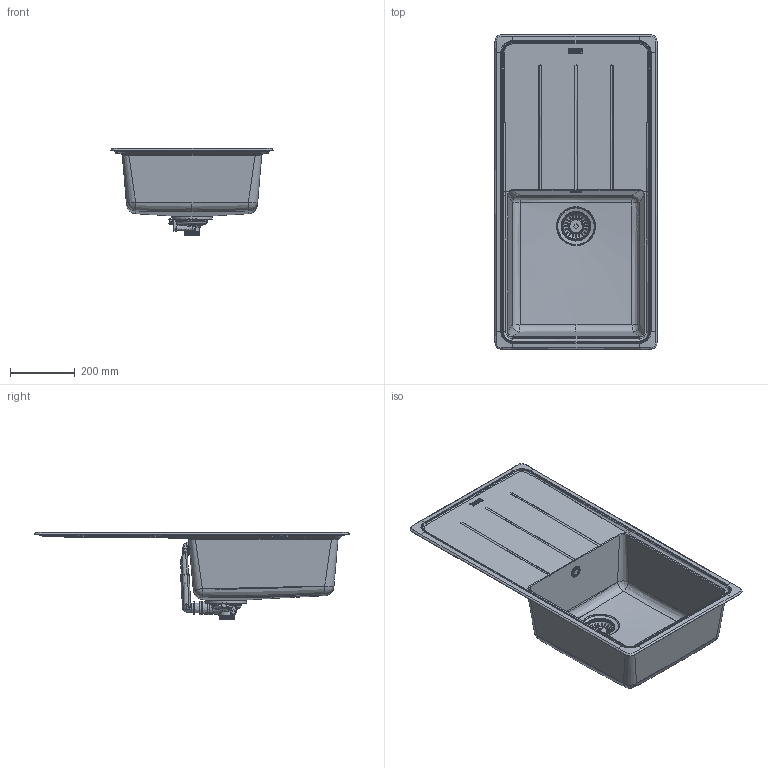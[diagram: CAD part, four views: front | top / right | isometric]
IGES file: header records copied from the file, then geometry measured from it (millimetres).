
Global section: file name: F:\_CONVERSIONE_CAD_2024_2025\_2024\03_3D kits new\Sinks\BASIS\114.0706.834 3D001_Sinks_Basis_BFG-611-97\3D001_Sinks_Basis_BFG-611-97.igs; native system: Rhinoceros ( May 17 2024 ); preprocessor: Trout Lake IGES 012 May 17 2024; date: 240626.140157; units: millimetre
Bounding box: 499.86 x 969.86 x 270.88 mm (x, y, z)
Surface area: 1614595.1 mm2 (no closed solid volume)
Topology: 0 solids, 0 shells, 2615 faces, 15913 edges, 15820 vertices
Faces by surface type: bspline 2615
